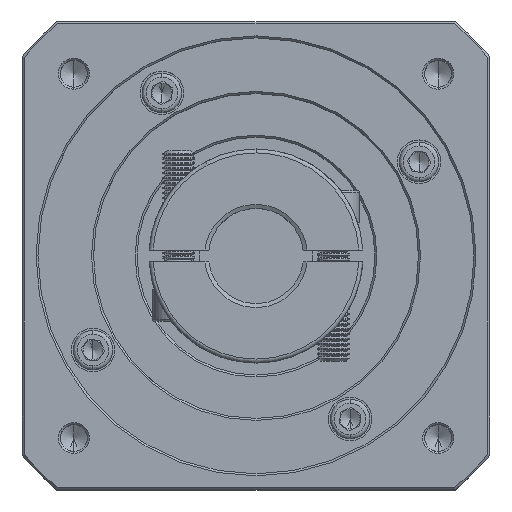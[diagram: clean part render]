
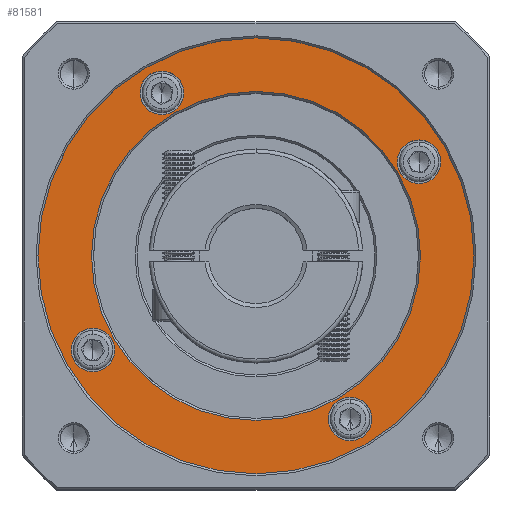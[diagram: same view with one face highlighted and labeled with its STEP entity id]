
A CAD part, top view. The second image highlights one B-rep face of the part: STEP entity #81581.
In plain terms, the highlighted planar face has unit normal (0, 0, 1).
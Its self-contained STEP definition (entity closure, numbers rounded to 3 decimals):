
#298 = ORIENTED_EDGE ( 'NONE', *, *, #62858, .T. ) ;
#537 = EDGE_LOOP ( 'NONE', ( #102897, #84425 ) ) ;
#1360 = EDGE_CURVE ( 'NONE', #51133, #86378, #80258, .T. ) ;
#2128 = AXIS2_PLACEMENT_3D ( 'NONE', #34294, #12670, #107743 ) ;
#2317 = VERTEX_POINT ( 'NONE', #63787 ) ;
#2333 = EDGE_CURVE ( 'NONE', #125835, #2317, #83337, .T. ) ;
#3133 = EDGE_CURVE ( 'NONE', #86378, #51133, #39417, .T. ) ;
#5603 = CIRCLE ( 'NONE', #68424, 5.5 ) ;
#6823 = AXIS2_PLACEMENT_3D ( 'NONE', #105810, #73431, #137704 ) ;
#7854 = CARTESIAN_POINT ( 'NONE',  ( 90.329, 52.435, -18.676 ) ) ;
#9648 = CARTESIAN_POINT ( 'NONE',  ( 25.079, 93.571, -18.676 ) ) ;
#12670 = DIRECTION ( 'NONE',  ( 0., 0., -1. ) ) ;
#12698 = VERTEX_POINT ( 'NONE', #128425 ) ;
#13184 = CARTESIAN_POINT ( 'NONE',  ( 48.829, 52.435, -18.676 ) ) ;
#14933 = CIRCLE ( 'NONE', #119982, 55. ) ;
#17389 = CIRCLE ( 'NONE', #65906, 5.5 ) ;
#19173 = ORIENTED_EDGE ( 'NONE', *, *, #1360, .T. ) ;
#19958 = VERTEX_POINT ( 'NONE', #137829 ) ;
#21577 = CARTESIAN_POINT ( 'NONE',  ( 72.579, 11.299, -18.676 ) ) ;
#21659 = DIRECTION ( 'NONE',  ( 0., 0., -1. ) ) ;
#22122 = AXIS2_PLACEMENT_3D ( 'NONE', #52950, #21659, #138716 ) ;
#24474 = ORIENTED_EDGE ( 'NONE', *, *, #3133, .T. ) ;
#29194 = EDGE_CURVE ( 'NONE', #56755, #19958, #44904, .T. ) ;
#33068 = CARTESIAN_POINT ( 'NONE',  ( 25.079, 99.071, -18.676 ) ) ;
#34294 = CARTESIAN_POINT ( 'NONE',  ( 25.079, 93.571, -18.676 ) ) ;
#36669 = DIRECTION ( 'NONE',  ( 0., 0., -1. ) ) ;
#37430 = AXIS2_PLACEMENT_3D ( 'NONE', #121600, #122543, #56916 ) ;
#39417 = CIRCLE ( 'NONE', #6823, 5.5 ) ;
#41455 = VERTEX_POINT ( 'NONE', #81001 ) ;
#42738 = EDGE_CURVE ( 'NONE', #104215, #126603, #76757, .T. ) ;
#43292 = DIRECTION ( 'NONE',  ( 0., 0., 1. ) ) ;
#44904 = CIRCLE ( 'NONE', #2128, 5.5 ) ;
#45227 = EDGE_CURVE ( 'NONE', #126603, #104215, #5603, .T. ) ;
#46353 = DIRECTION ( 'NONE',  ( 0., 0., -1. ) ) ;
#46420 = DIRECTION ( 'NONE',  ( 1., 0., 0. ) ) ;
#47012 = FACE_BOUND ( 'NONE', #537, .T. ) ;
#48214 = ORIENTED_EDGE ( 'NONE', *, *, #64428, .T. ) ;
#48561 = ORIENTED_EDGE ( 'NONE', *, *, #59984, .T. ) ;
#51133 = VERTEX_POINT ( 'NONE', #99461 ) ;
#51298 = ORIENTED_EDGE ( 'NONE', *, *, #2333, .T. ) ;
#51628 = DIRECTION ( 'NONE',  ( 0., 1., 0. ) ) ;
#52098 = DIRECTION ( 'NONE',  ( 0., 0., 1. ) ) ;
#52950 = CARTESIAN_POINT ( 'NONE',  ( 89.965, 76.185, -18.676 ) ) ;
#56755 = VERTEX_POINT ( 'NONE', #33068 ) ;
#56916 = DIRECTION ( 'NONE',  ( 0., 1., 0. ) ) ;
#57537 = DIRECTION ( 'NONE',  ( 0., 1., 0. ) ) ;
#58947 = DIRECTION ( 'NONE',  ( 0., 0., 1. ) ) ;
#59984 = EDGE_CURVE ( 'NONE', #2317, #125835, #14933, .T. ) ;
#60373 = FACE_BOUND ( 'NONE', #62606, .T. ) ;
#61934 = CARTESIAN_POINT ( 'NONE',  ( 48.829, 52.435, -18.676 ) ) ;
#62606 = EDGE_LOOP ( 'NONE', ( #74927, #66993 ) ) ;
#62858 = EDGE_CURVE ( 'NONE', #12698, #83559, #132454, .T. ) ;
#63787 = CARTESIAN_POINT ( 'NONE',  ( 48.829, -2.565, -18.676 ) ) ;
#64428 = EDGE_CURVE ( 'NONE', #116701, #41455, #17389, .T. ) ;
#65628 = DIRECTION ( 'NONE',  ( 0., 1., 0. ) ) ;
#65906 = AXIS2_PLACEMENT_3D ( 'NONE', #21577, #46353, #57537 ) ;
#66097 = DIRECTION ( 'NONE',  ( 0., 0., -1. ) ) ;
#66760 = DIRECTION ( 'NONE',  ( 1., 0., 0. ) ) ;
#66993 = ORIENTED_EDGE ( 'NONE', *, *, #42738, .T. ) ;
#68424 = AXIS2_PLACEMENT_3D ( 'NONE', #120450, #66097, #65628 ) ;
#70404 = AXIS2_PLACEMENT_3D ( 'NONE', #61934, #52098, #51628 ) ;
#73431 = DIRECTION ( 'NONE',  ( 0., 0., -1. ) ) ;
#74927 = ORIENTED_EDGE ( 'NONE', *, *, #45227, .T. ) ;
#76757 = CIRCLE ( 'NONE', #22122, 5.5 ) ;
#77917 = DIRECTION ( 'NONE',  ( 0., 0., -1. ) ) ;
#79972 = DIRECTION ( 'NONE',  ( 0., 1., 0. ) ) ;
#80258 = CIRCLE ( 'NONE', #119696, 5.5 ) ;
#80949 = EDGE_LOOP ( 'NONE', ( #48214, #132493 ) ) ;
#81001 = CARTESIAN_POINT ( 'NONE',  ( 72.579, 5.799, -18.676 ) ) ;
#81581 = ADVANCED_FACE ( 'NONE', ( #87058, #103928, #47012, #60373, #115617, #107329 ), #127600, .T. ) ;
#83337 = CIRCLE ( 'NONE', #70404, 55. ) ;
#83559 = VERTEX_POINT ( 'NONE', #7854 ) ;
#83630 = CIRCLE ( 'NONE', #124980, 5.5 ) ;
#84425 = ORIENTED_EDGE ( 'NONE', *, *, #126408, .T. ) ;
#86145 = CARTESIAN_POINT ( 'NONE',  ( 89.965, 70.685, -18.676 ) ) ;
#86378 = VERTEX_POINT ( 'NONE', #97108 ) ;
#87058 = FACE_OUTER_BOUND ( 'NONE', #132057, .T. ) ;
#89086 = CARTESIAN_POINT ( 'NONE',  ( 89.965, 81.685, -18.676 ) ) ;
#89541 = AXIS2_PLACEMENT_3D ( 'NONE', #130959, #77917, #66760 ) ;
#90096 = EDGE_CURVE ( 'NONE', #41455, #116701, #92993, .T. ) ;
#92993 = CIRCLE ( 'NONE', #37430, 5.5 ) ;
#93346 = CARTESIAN_POINT ( 'NONE',  ( 48.829, 107.435, -18.676 ) ) ;
#96611 = DIRECTION ( 'NONE',  ( 0., 1., 0. ) ) ;
#97108 = CARTESIAN_POINT ( 'NONE',  ( 7.692, 34.185, -18.676 ) ) ;
#97618 = CARTESIAN_POINT ( 'NONE',  ( 7.692, 28.685, -18.676 ) ) ;
#98080 = DIRECTION ( 'NONE',  ( 0., 1., 0. ) ) ;
#99461 = CARTESIAN_POINT ( 'NONE',  ( 7.692, 23.185, -18.676 ) ) ;
#99713 = CIRCLE ( 'NONE', #89541, 41.5 ) ;
#102897 = ORIENTED_EDGE ( 'NONE', *, *, #29194, .T. ) ;
#103928 = FACE_BOUND ( 'NONE', #125934, .T. ) ;
#104215 = VERTEX_POINT ( 'NONE', #86145 ) ;
#105810 = CARTESIAN_POINT ( 'NONE',  ( 7.692, 28.685, -18.676 ) ) ;
#107329 = FACE_BOUND ( 'NONE', #80949, .T. ) ;
#107743 = DIRECTION ( 'NONE',  ( 0., 1., 0. ) ) ;
#108884 = DIRECTION ( 'NONE',  ( 0., 0., -1. ) ) ;
#109914 = EDGE_LOOP ( 'NONE', ( #24474, #19173 ) ) ;
#114097 = CARTESIAN_POINT ( 'NONE',  ( 72.579, 16.799, -18.676 ) ) ;
#115617 = FACE_BOUND ( 'NONE', #109914, .T. ) ;
#116701 = VERTEX_POINT ( 'NONE', #114097 ) ;
#119696 = AXIS2_PLACEMENT_3D ( 'NONE', #97618, #108884, #98080 ) ;
#119982 = AXIS2_PLACEMENT_3D ( 'NONE', #132580, #58947, #79972 ) ;
#120450 = CARTESIAN_POINT ( 'NONE',  ( 89.965, 76.185, -18.676 ) ) ;
#121363 = AXIS2_PLACEMENT_3D ( 'NONE', #128510, #43292, #96611 ) ;
#121600 = CARTESIAN_POINT ( 'NONE',  ( 72.579, 11.299, -18.676 ) ) ;
#122115 = ORIENTED_EDGE ( 'NONE', *, *, #125030, .T. ) ;
#122543 = DIRECTION ( 'NONE',  ( 0., 0., -1. ) ) ;
#124980 = AXIS2_PLACEMENT_3D ( 'NONE', #9648, #138897, #126749 ) ;
#125030 = EDGE_CURVE ( 'NONE', #83559, #12698, #99713, .T. ) ;
#125835 = VERTEX_POINT ( 'NONE', #93346 ) ;
#125934 = EDGE_LOOP ( 'NONE', ( #122115, #298 ) ) ;
#126408 = EDGE_CURVE ( 'NONE', #19958, #56755, #83630, .T. ) ;
#126603 = VERTEX_POINT ( 'NONE', #89086 ) ;
#126749 = DIRECTION ( 'NONE',  ( 0., 1., 0. ) ) ;
#127600 = PLANE ( 'NONE',  #121363 ) ;
#127712 = AXIS2_PLACEMENT_3D ( 'NONE', #13184, #36669, #46420 ) ;
#128425 = CARTESIAN_POINT ( 'NONE',  ( 7.329, 52.435, -18.676 ) ) ;
#128510 = CARTESIAN_POINT ( 'NONE',  ( 48.829, 52.435, -18.676 ) ) ;
#130959 = CARTESIAN_POINT ( 'NONE',  ( 48.829, 52.435, -18.676 ) ) ;
#132057 = EDGE_LOOP ( 'NONE', ( #51298, #48561 ) ) ;
#132454 = CIRCLE ( 'NONE', #127712, 41.5 ) ;
#132493 = ORIENTED_EDGE ( 'NONE', *, *, #90096, .T. ) ;
#132580 = CARTESIAN_POINT ( 'NONE',  ( 48.829, 52.435, -18.676 ) ) ;
#137704 = DIRECTION ( 'NONE',  ( 0., 1., 0. ) ) ;
#137829 = CARTESIAN_POINT ( 'NONE',  ( 25.079, 88.071, -18.676 ) ) ;
#138716 = DIRECTION ( 'NONE',  ( 0., 1., 0. ) ) ;
#138897 = DIRECTION ( 'NONE',  ( 0., 0., -1. ) ) ;
